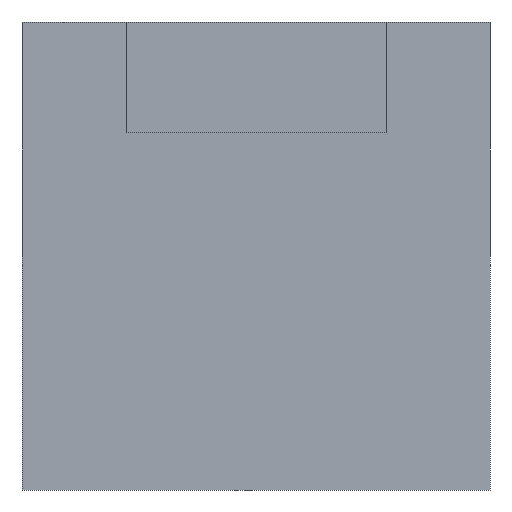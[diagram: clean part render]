
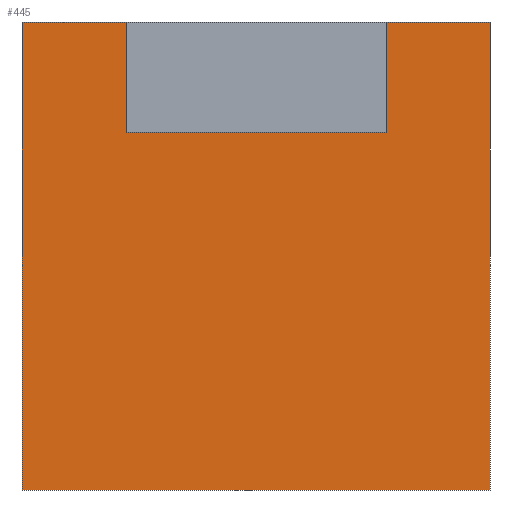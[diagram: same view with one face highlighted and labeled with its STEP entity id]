
A CAD part, left-side view. The second image highlights one B-rep face of the part: STEP entity #445.
In plain terms, the highlighted planar face has unit normal (-1, 0, 0).
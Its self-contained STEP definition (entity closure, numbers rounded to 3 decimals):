
#44 = PLANE('',#45);
#45 = AXIS2_PLACEMENT_3D('',#46,#47,#48);
#46 = CARTESIAN_POINT('',(-37.6,-1.8,-11.));
#47 = DIRECTION('',(0.,1.,0.));
#48 = DIRECTION('',(0.,0.,-1.));
#72 = PLANE('',#73);
#73 = AXIS2_PLACEMENT_3D('',#74,#75,#76);
#74 = CARTESIAN_POINT('',(-37.6,-1.8,-11.));
#75 = DIRECTION('',(0.,0.,1.));
#76 = DIRECTION('',(1.,0.,0.));
#100 = PLANE('',#101);
#101 = AXIS2_PLACEMENT_3D('',#102,#103,#104);
#102 = CARTESIAN_POINT('',(-37.6,1.8,-11.));
#103 = DIRECTION('',(0.,1.,0.));
#104 = DIRECTION('',(0.,0.,-1.));
#126 = PLANE('',#127);
#127 = AXIS2_PLACEMENT_3D('',#128,#129,#130);
#128 = CARTESIAN_POINT('',(-37.6,-1.8,-7.4));
#129 = DIRECTION('',(-0.,-0.,1.));
#130 = DIRECTION('',(1.,0.,0.));
#142 = VERTEX_POINT('',#143);
#143 = CARTESIAN_POINT('',(-38.5,-1.8,-11.));
#166 = VERTEX_POINT('',#167);
#167 = CARTESIAN_POINT('',(-38.5,-1.8,-7.4));
#188 = EDGE_CURVE('',#142,#166,#189,.T.);
#189 = SURFACE_CURVE('',#190,(#194,#201),.PCURVE_S1.);
#190 = LINE('',#191,#192);
#191 = CARTESIAN_POINT('',(-38.5,-1.8,-11.));
#192 = VECTOR('',#193,1.);
#193 = DIRECTION('',(0.,0.,1.));
#194 = PCURVE('',#44,#195);
#195 = DEFINITIONAL_REPRESENTATION('',(#196),#200);
#196 = LINE('',#197,#198);
#197 = CARTESIAN_POINT('',(-0.,0.9));
#198 = VECTOR('',#199,1.);
#199 = DIRECTION('',(-1.,0.));
#200 = ( GEOMETRIC_REPRESENTATION_CONTEXT(2) 
PARAMETRIC_REPRESENTATION_CONTEXT() REPRESENTATION_CONTEXT('2D SPACE',''
  ) );
#201 = PCURVE('',#202,#207);
#202 = PLANE('',#203);
#203 = AXIS2_PLACEMENT_3D('',#204,#205,#206);
#204 = CARTESIAN_POINT('',(-38.5,-1.8,-11.));
#205 = DIRECTION('',(-1.,-0.,-0.));
#206 = DIRECTION('',(0.,0.,-1.));
#207 = DEFINITIONAL_REPRESENTATION('',(#208),#212);
#208 = LINE('',#209,#210);
#209 = CARTESIAN_POINT('',(-0.,-0.));
#210 = VECTOR('',#211,1.);
#211 = DIRECTION('',(-1.,-0.));
#212 = ( GEOMETRIC_REPRESENTATION_CONTEXT(2) 
PARAMETRIC_REPRESENTATION_CONTEXT() REPRESENTATION_CONTEXT('2D SPACE',''
  ) );
#219 = EDGE_CURVE('',#166,#220,#222,.T.);
#220 = VERTEX_POINT('',#221);
#221 = CARTESIAN_POINT('',(-38.5,-1.,-7.4));
#222 = SURFACE_CURVE('',#223,(#227,#234),.PCURVE_S1.);
#223 = LINE('',#224,#225);
#224 = CARTESIAN_POINT('',(-38.5,-1.8,-7.4));
#225 = VECTOR('',#226,1.);
#226 = DIRECTION('',(0.,1.,0.));
#227 = PCURVE('',#126,#228);
#228 = DEFINITIONAL_REPRESENTATION('',(#229),#233);
#229 = LINE('',#230,#231);
#230 = CARTESIAN_POINT('',(-0.9,0.));
#231 = VECTOR('',#232,1.);
#232 = DIRECTION('',(0.,1.));
#233 = ( GEOMETRIC_REPRESENTATION_CONTEXT(2) 
PARAMETRIC_REPRESENTATION_CONTEXT() REPRESENTATION_CONTEXT('2D SPACE',''
  ) );
#234 = PCURVE('',#202,#235);
#235 = DEFINITIONAL_REPRESENTATION('',(#236),#240);
#236 = LINE('',#237,#238);
#237 = CARTESIAN_POINT('',(-3.6,-0.));
#238 = VECTOR('',#239,1.);
#239 = DIRECTION('',(-0.,-1.));
#240 = ( GEOMETRIC_REPRESENTATION_CONTEXT(2) 
PARAMETRIC_REPRESENTATION_CONTEXT() REPRESENTATION_CONTEXT('2D SPACE',''
  ) );
#258 = PLANE('',#259);
#259 = AXIS2_PLACEMENT_3D('',#260,#261,#262);
#260 = CARTESIAN_POINT('',(-38.5,-1.,-8.25));
#261 = DIRECTION('',(0.,1.,0.));
#262 = DIRECTION('',(0.,0.,-1.));
#299 = VERTEX_POINT('',#300);
#300 = CARTESIAN_POINT('',(-38.5,1.,-7.4));
#314 = PLANE('',#315);
#315 = AXIS2_PLACEMENT_3D('',#316,#317,#318);
#316 = CARTESIAN_POINT('',(-38.5,1.,-8.25));
#317 = DIRECTION('',(0.,1.,0.));
#318 = DIRECTION('',(0.,0.,-1.));
#326 = EDGE_CURVE('',#299,#327,#329,.T.);
#327 = VERTEX_POINT('',#328);
#328 = CARTESIAN_POINT('',(-38.5,1.8,-7.4));
#329 = SURFACE_CURVE('',#330,(#334,#341),.PCURVE_S1.);
#330 = LINE('',#331,#332);
#331 = CARTESIAN_POINT('',(-38.5,-1.8,-7.4));
#332 = VECTOR('',#333,1.);
#333 = DIRECTION('',(0.,1.,0.));
#334 = PCURVE('',#126,#335);
#335 = DEFINITIONAL_REPRESENTATION('',(#336),#340);
#336 = LINE('',#337,#338);
#337 = CARTESIAN_POINT('',(-0.9,0.));
#338 = VECTOR('',#339,1.);
#339 = DIRECTION('',(0.,1.));
#340 = ( GEOMETRIC_REPRESENTATION_CONTEXT(2) 
PARAMETRIC_REPRESENTATION_CONTEXT() REPRESENTATION_CONTEXT('2D SPACE',''
  ) );
#341 = PCURVE('',#202,#342);
#342 = DEFINITIONAL_REPRESENTATION('',(#343),#347);
#343 = LINE('',#344,#345);
#344 = CARTESIAN_POINT('',(-3.6,-0.));
#345 = VECTOR('',#346,1.);
#346 = DIRECTION('',(-0.,-1.));
#347 = ( GEOMETRIC_REPRESENTATION_CONTEXT(2) 
PARAMETRIC_REPRESENTATION_CONTEXT() REPRESENTATION_CONTEXT('2D SPACE',''
  ) );
#374 = VERTEX_POINT('',#375);
#375 = CARTESIAN_POINT('',(-38.5,1.8,-11.));
#398 = EDGE_CURVE('',#374,#327,#399,.T.);
#399 = SURFACE_CURVE('',#400,(#404,#411),.PCURVE_S1.);
#400 = LINE('',#401,#402);
#401 = CARTESIAN_POINT('',(-38.5,1.8,-11.));
#402 = VECTOR('',#403,1.);
#403 = DIRECTION('',(0.,0.,1.));
#404 = PCURVE('',#100,#405);
#405 = DEFINITIONAL_REPRESENTATION('',(#406),#410);
#406 = LINE('',#407,#408);
#407 = CARTESIAN_POINT('',(-0.,0.9));
#408 = VECTOR('',#409,1.);
#409 = DIRECTION('',(-1.,0.));
#410 = ( GEOMETRIC_REPRESENTATION_CONTEXT(2) 
PARAMETRIC_REPRESENTATION_CONTEXT() REPRESENTATION_CONTEXT('2D SPACE',''
  ) );
#411 = PCURVE('',#202,#412);
#412 = DEFINITIONAL_REPRESENTATION('',(#413),#417);
#413 = LINE('',#414,#415);
#414 = CARTESIAN_POINT('',(-0.,-3.6));
#415 = VECTOR('',#416,1.);
#416 = DIRECTION('',(-1.,-0.));
#417 = ( GEOMETRIC_REPRESENTATION_CONTEXT(2) 
PARAMETRIC_REPRESENTATION_CONTEXT() REPRESENTATION_CONTEXT('2D SPACE',''
  ) );
#424 = EDGE_CURVE('',#142,#374,#425,.T.);
#425 = SURFACE_CURVE('',#426,(#430,#437),.PCURVE_S1.);
#426 = LINE('',#427,#428);
#427 = CARTESIAN_POINT('',(-38.5,-1.8,-11.));
#428 = VECTOR('',#429,1.);
#429 = DIRECTION('',(0.,1.,0.));
#430 = PCURVE('',#72,#431);
#431 = DEFINITIONAL_REPRESENTATION('',(#432),#436);
#432 = LINE('',#433,#434);
#433 = CARTESIAN_POINT('',(-0.9,0.));
#434 = VECTOR('',#435,1.);
#435 = DIRECTION('',(-0.,1.));
#436 = ( GEOMETRIC_REPRESENTATION_CONTEXT(2) 
PARAMETRIC_REPRESENTATION_CONTEXT() REPRESENTATION_CONTEXT('2D SPACE',''
  ) );
#437 = PCURVE('',#202,#438);
#438 = DEFINITIONAL_REPRESENTATION('',(#439),#443);
#439 = LINE('',#440,#441);
#440 = CARTESIAN_POINT('',(-0.,-0.));
#441 = VECTOR('',#442,1.);
#442 = DIRECTION('',(-0.,-1.));
#443 = ( GEOMETRIC_REPRESENTATION_CONTEXT(2) 
PARAMETRIC_REPRESENTATION_CONTEXT() REPRESENTATION_CONTEXT('2D SPACE',''
  ) );
#445 = ADVANCED_FACE('',(#446),#202,.T.);
#446 = FACE_BOUND('',#447,.F.);
#447 = EDGE_LOOP('',(#448,#449,#450,#451,#452,#453,#476,#504));
#448 = ORIENTED_EDGE('',*,*,#219,.F.);
#449 = ORIENTED_EDGE('',*,*,#188,.F.);
#450 = ORIENTED_EDGE('',*,*,#424,.T.);
#451 = ORIENTED_EDGE('',*,*,#398,.T.);
#452 = ORIENTED_EDGE('',*,*,#326,.F.);
#453 = ORIENTED_EDGE('',*,*,#454,.F.);
#454 = EDGE_CURVE('',#455,#299,#457,.T.);
#455 = VERTEX_POINT('',#456);
#456 = CARTESIAN_POINT('',(-38.5,1.,-8.25));
#457 = SURFACE_CURVE('',#458,(#462,#469),.PCURVE_S1.);
#458 = LINE('',#459,#460);
#459 = CARTESIAN_POINT('',(-38.5,1.,-8.25));
#460 = VECTOR('',#461,1.);
#461 = DIRECTION('',(0.,0.,1.));
#462 = PCURVE('',#202,#463);
#463 = DEFINITIONAL_REPRESENTATION('',(#464),#468);
#464 = LINE('',#465,#466);
#465 = CARTESIAN_POINT('',(-2.75,-2.8));
#466 = VECTOR('',#467,1.);
#467 = DIRECTION('',(-1.,-0.));
#468 = ( GEOMETRIC_REPRESENTATION_CONTEXT(2) 
PARAMETRIC_REPRESENTATION_CONTEXT() REPRESENTATION_CONTEXT('2D SPACE',''
  ) );
#469 = PCURVE('',#314,#470);
#470 = DEFINITIONAL_REPRESENTATION('',(#471),#475);
#471 = LINE('',#472,#473);
#472 = CARTESIAN_POINT('',(-0.,-0.));
#473 = VECTOR('',#474,1.);
#474 = DIRECTION('',(-1.,0.));
#475 = ( GEOMETRIC_REPRESENTATION_CONTEXT(2) 
PARAMETRIC_REPRESENTATION_CONTEXT() REPRESENTATION_CONTEXT('2D SPACE',''
  ) );
#476 = ORIENTED_EDGE('',*,*,#477,.F.);
#477 = EDGE_CURVE('',#478,#455,#480,.T.);
#478 = VERTEX_POINT('',#479);
#479 = CARTESIAN_POINT('',(-38.5,-1.,-8.25));
#480 = SURFACE_CURVE('',#481,(#485,#492),.PCURVE_S1.);
#481 = LINE('',#482,#483);
#482 = CARTESIAN_POINT('',(-38.5,-1.,-8.25));
#483 = VECTOR('',#484,1.);
#484 = DIRECTION('',(0.,1.,0.));
#485 = PCURVE('',#202,#486);
#486 = DEFINITIONAL_REPRESENTATION('',(#487),#491);
#487 = LINE('',#488,#489);
#488 = CARTESIAN_POINT('',(-2.75,-0.8));
#489 = VECTOR('',#490,1.);
#490 = DIRECTION('',(-0.,-1.));
#491 = ( GEOMETRIC_REPRESENTATION_CONTEXT(2) 
PARAMETRIC_REPRESENTATION_CONTEXT() REPRESENTATION_CONTEXT('2D SPACE',''
  ) );
#492 = PCURVE('',#493,#498);
#493 = PLANE('',#494);
#494 = AXIS2_PLACEMENT_3D('',#495,#496,#497);
#495 = CARTESIAN_POINT('',(-38.5,-1.,-8.25));
#496 = DIRECTION('',(0.,0.,1.));
#497 = DIRECTION('',(1.,0.,0.));
#498 = DEFINITIONAL_REPRESENTATION('',(#499),#503);
#499 = LINE('',#500,#501);
#500 = CARTESIAN_POINT('',(0.,-0.));
#501 = VECTOR('',#502,1.);
#502 = DIRECTION('',(-0.,1.));
#503 = ( GEOMETRIC_REPRESENTATION_CONTEXT(2) 
PARAMETRIC_REPRESENTATION_CONTEXT() REPRESENTATION_CONTEXT('2D SPACE',''
  ) );
#504 = ORIENTED_EDGE('',*,*,#505,.T.);
#505 = EDGE_CURVE('',#478,#220,#506,.T.);
#506 = SURFACE_CURVE('',#507,(#511,#518),.PCURVE_S1.);
#507 = LINE('',#508,#509);
#508 = CARTESIAN_POINT('',(-38.5,-1.,-8.25));
#509 = VECTOR('',#510,1.);
#510 = DIRECTION('',(0.,0.,1.));
#511 = PCURVE('',#202,#512);
#512 = DEFINITIONAL_REPRESENTATION('',(#513),#517);
#513 = LINE('',#514,#515);
#514 = CARTESIAN_POINT('',(-2.75,-0.8));
#515 = VECTOR('',#516,1.);
#516 = DIRECTION('',(-1.,-0.));
#517 = ( GEOMETRIC_REPRESENTATION_CONTEXT(2) 
PARAMETRIC_REPRESENTATION_CONTEXT() REPRESENTATION_CONTEXT('2D SPACE',''
  ) );
#518 = PCURVE('',#258,#519);
#519 = DEFINITIONAL_REPRESENTATION('',(#520),#524);
#520 = LINE('',#521,#522);
#521 = CARTESIAN_POINT('',(-0.,-0.));
#522 = VECTOR('',#523,1.);
#523 = DIRECTION('',(-1.,0.));
#524 = ( GEOMETRIC_REPRESENTATION_CONTEXT(2) 
PARAMETRIC_REPRESENTATION_CONTEXT() REPRESENTATION_CONTEXT('2D SPACE',''
  ) );
